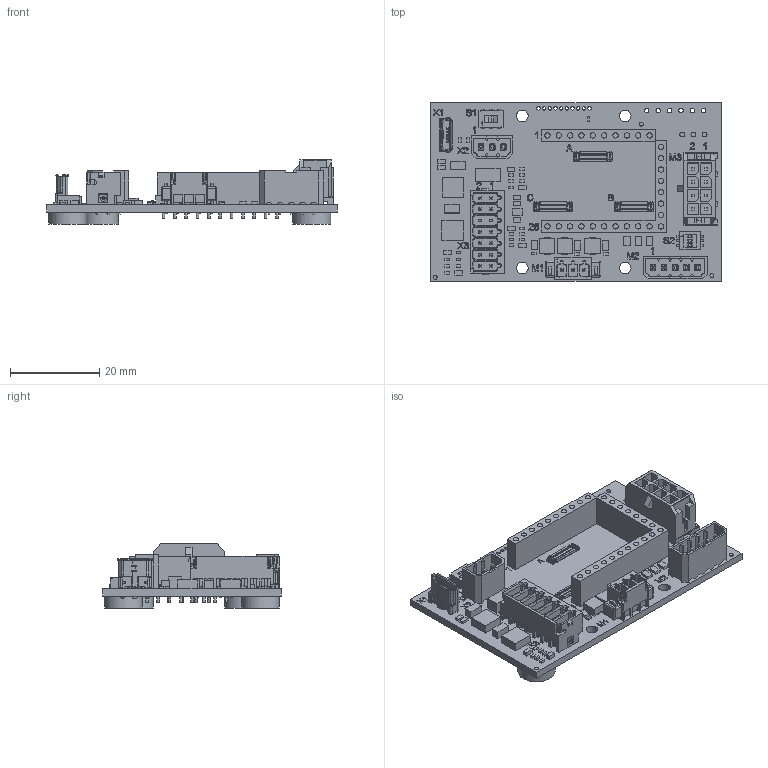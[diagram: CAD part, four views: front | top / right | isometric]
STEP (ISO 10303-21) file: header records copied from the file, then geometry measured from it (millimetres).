
FILE_DESCRIPTION(/* description */ (''),/* implementation_level */ '2;1');
FILE_NAME(/* name */ 'MC3001_STD.stp',/* time_stamp */ '2021-01-13T14:24:19+01:00',/* author */ ('DR. FRITZ FAULHABER GmbH & Co. KG'),/* organization */ ('DR. FRITZ FAULHABER GmbH & Co. KG'),/* preprocessor_version */ 'ST-DEVELOPER v16.7',/* originating_system */ 'SIEMENS PLM Software NX 1919',/* authorisation */ '');
FILE_SCHEMA (('AUTOMOTIVE_DESIGN { 1 0 10303 214 3 1 1 1 }'));
Products named in the file (1): 012012_B_1-TP-00204
Bounding box: 65 x 40 x 14.33 mm (x, y, z)
Volume: 8513.7 mm3; surface area: 12923.5 mm2
Topology: 1 solids, 1 shells, 6236 faces, 16815 edges, 11015 vertices
Faces by surface type: plane 4871, cylinder 1051, bspline 125, extrusion 117, cone 54, sphere 10, torus 8
Full cylindrical faces by diameter (mm): 0.6 x28, 0.75 x10, 0.8 x28, 0.86 x2, 0.9 x3, 1 x6, 1.1 x21, 1.2 x55, 2.6 x4, 8.45 x4
Entity records: 201372 total; most frequent: CARTESIAN_POINT 44979, ORIENTED_EDGE 33134, DIRECTION 30051, EDGE_CURVE 16567, VECTOR 13683, LINE 13566, VERTEX_POINT 10942, AXIS2_PLACEMENT_3D 8184
